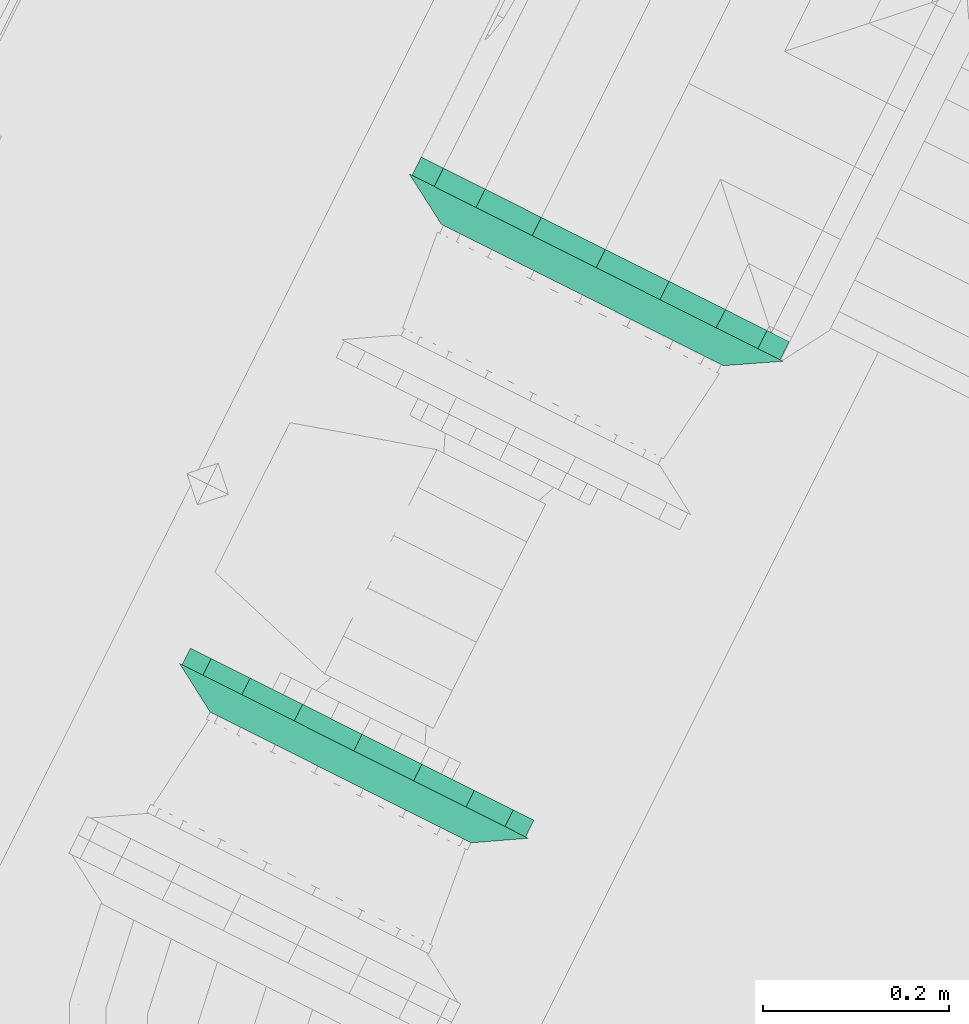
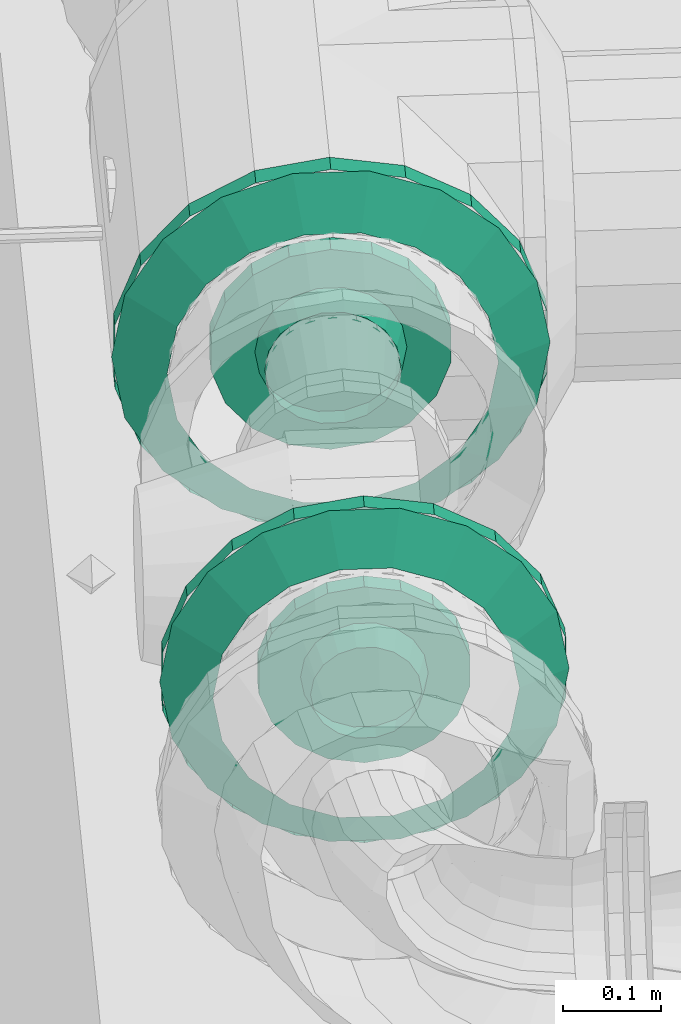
# One storey, part 111 of 206: 2 flow fittings.
"""IFC2X3 building model written with IfcOpenShell, lengths in metres."""

from ifc_helpers import new_model, si_unit, derived_unit, direction, frame, origin, place, context, subcontext, project, spatial, face_set, surface_model, source, transform, mapped, material, type_object, type_shapes, element, save


model = new_model("IFC2X3")

# Units and contexts
model_context = context("Model", 3, precision=5.2338327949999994e-05, world=origin(), true_north=direction((0.0, 1.0)))
body_context = subcontext(model_context, "Body", "Model", "MODEL_VIEW")
ifc_project = project(units=[si_unit("LENGTHUNIT", "METRE"), si_unit("AREAUNIT", "SQUARE_METRE"), si_unit("VOLUMEUNIT", "CUBIC_METRE"), si_unit("MASSUNIT", "GRAM", prefix="KILO"), si_unit("PLANEANGLEUNIT", "RADIAN"), derived_unit("THERMALTRANSMITTANCEUNIT", [(si_unit("MASSUNIT", "GRAM", prefix="KILO"), 1), (si_unit("THERMODYNAMICTEMPERATUREUNIT", "KELVIN"), -1), (si_unit("TIMEUNIT", "SECOND"), -3)])], contexts=[model_context])

# Site, building, storey
site_placement = place(None, frame((0.0, 0.0, 0.0), z_axis=(0.0, 0.0, 1.0), x_axis=(0.8939966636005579, -0.4480736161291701, 0.0)))
site = spatial("IfcSite", under=ifc_project, at=site_placement, Name="Default", CompositionType="ELEMENT")
building_placement = place(site_placement, origin())
building = spatial("IfcBuilding", under=site, at=building_placement, CompositionType="ELEMENT")
storey_placement = place(building_placement, origin())
storey = spatial("IfcBuildingStorey", under=building, at=storey_placement, Name="Erdgeschoss", CompositionType="ELEMENT", Elevation=0.0)

# Flow fittings
ifc_material = material(Name="IfcSurfaceStyle #1741")
distribution_element_type_1 = type_object("IfcDistributionElementType", Name="Flansch 318425:Flansch 318425", material=ifc_material)
shared_shape_1 = source(origin(), body_context, "Body", "SurfaceModel", [
    surface_model("IfcFaceBasedSurfaceModel", [(23.08485389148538, 6.45896109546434, 2.479), (23.04210137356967, 6.45896109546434, 2.4714615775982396), (23.04210137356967, 6.43696109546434, 2.4714615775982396), (23.08485389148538, 6.43696109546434, 2.479), (23.004505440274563, 6.45896109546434, 2.4497555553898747), (23.004505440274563, 6.43696109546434, 2.4497555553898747), (22.976600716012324, 6.45896109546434, 2.4165), (22.976600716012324, 6.43696109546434, 2.4165), (22.96175292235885, 6.45896109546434, 2.375706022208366), (22.96175292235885, 6.43696109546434, 2.375706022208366), (22.96175292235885, 6.45896109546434, 2.3322939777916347), (22.96175292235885, 6.43696109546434, 2.3322939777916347), (22.97660071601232, 6.45896109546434, 2.291500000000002), (22.97660071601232, 6.43696109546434, 2.291500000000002), (23.004505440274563, 6.45896109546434, 2.2582444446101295), (23.004505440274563, 6.43696109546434, 2.2582444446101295), (23.04210137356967, 6.45896109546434, 2.2365384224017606), (23.04210137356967, 6.43696109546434, 2.2365384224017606), (23.08485389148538, 6.45896109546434, 2.2290000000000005), (23.08485389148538, 6.43696109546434, 2.2290000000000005), (23.127606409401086, 6.45896109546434, 2.2365384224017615), (23.127606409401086, 6.43696109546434, 2.2365384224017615), (23.165202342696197, 6.45896109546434, 2.2582444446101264), (23.165202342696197, 6.43696109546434, 2.2582444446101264), (23.193107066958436, 6.45896109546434, 2.291500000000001), (23.193107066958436, 6.43696109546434, 2.291500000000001), (23.20795486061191, 6.45896109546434, 2.3322939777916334), (23.20795486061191, 6.43696109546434, 2.3322939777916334), (23.20795486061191, 6.45896109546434, 2.3757060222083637), (23.20795486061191, 6.43696109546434, 2.3757060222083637), (23.193107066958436, 6.45896109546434, 2.4164999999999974), (23.193107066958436, 6.43696109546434, 2.4164999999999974), (23.165202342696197, 6.45896109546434, 2.4497555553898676), (23.165202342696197, 6.43696109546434, 2.4497555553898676), (23.12760640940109, 6.45896109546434, 2.4714615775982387), (23.12760640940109, 6.43696109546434, 2.4714615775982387), (23.08485389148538, 6.43696109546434, 2.3540000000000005), (23.00685389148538, 6.43696109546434, 2.3540000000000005), (23.011557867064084, 6.43696109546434, 2.3273224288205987), (23.019216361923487, 6.403961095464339, 2.330109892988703), (23.01500389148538, 6.403961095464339, 2.3539999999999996), (23.025102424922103, 6.43696109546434, 2.3038625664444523), (23.031345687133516, 6.403961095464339, 2.3091012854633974), (23.045853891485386, 6.43696109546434, 2.286450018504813), (23.049928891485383, 6.403961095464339, 2.2935081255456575), (23.071309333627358, 6.43696109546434, 2.277184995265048), (23.072724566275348, 6.403961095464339, 2.2852111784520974), (23.0983984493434, 6.43696109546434, 2.277184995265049), (23.096983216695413, 6.403961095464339, 2.2852111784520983), (23.12385389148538, 6.43696109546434, 2.2864500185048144), (23.119778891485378, 6.403961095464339, 2.2935081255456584), (23.144605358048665, 6.43696109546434, 2.3038625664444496), (23.138362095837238, 6.403961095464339, 2.3091012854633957), (23.15814991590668, 6.43696109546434, 2.3273224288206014), (23.150491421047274, 6.403961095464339, 2.330109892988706), (23.162853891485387, 6.436961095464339, 2.354000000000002), (23.154703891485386, 6.4039610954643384, 2.3540000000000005), (23.15814991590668, 6.43696109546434, 2.380677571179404), (23.15049142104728, 6.403961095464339, 2.3778901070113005), (23.144605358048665, 6.43696109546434, 2.404137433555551), (23.138362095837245, 6.403961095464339, 2.3988987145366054), (23.12385389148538, 6.43696109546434, 2.4215499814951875), (23.119778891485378, 6.403961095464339, 2.414491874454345), (23.098398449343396, 6.43696109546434, 2.4308150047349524), (23.096983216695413, 6.403961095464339, 2.422788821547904), (23.071309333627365, 6.43696109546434, 2.4308150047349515), (23.072724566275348, 6.403961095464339, 2.4227888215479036), (23.045853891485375, 6.43696109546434, 2.4215499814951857), (23.049928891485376, 6.403961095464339, 2.4144918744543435), (23.0251024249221, 6.43696109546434, 2.4041374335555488), (23.031345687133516, 6.403961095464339, 2.398898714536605), (23.011557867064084, 6.43696109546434, 2.3806775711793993), (23.01921636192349, 6.403961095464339, 2.377890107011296), (23.084853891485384, 6.45896109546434, 2.5789999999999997), (23.007899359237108, 6.45896109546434, 2.5654308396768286), (23.0078993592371, 6.43696109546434, 2.565430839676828), (23.08485389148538, 6.43696109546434, 2.578999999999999), (22.940226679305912, 6.45896109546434, 2.5263599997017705), (22.94022667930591, 6.43696109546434, 2.5263599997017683), (22.88999817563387, 6.45896109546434, 2.4665000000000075), (22.88999817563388, 6.43696109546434, 2.4665000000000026), (22.863272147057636, 6.45896109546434, 2.3930708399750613), (22.863272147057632, 6.43696109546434, 2.3930708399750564), (22.863272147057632, 6.45896109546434, 2.3149291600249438), (22.863272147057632, 6.43696109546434, 2.3149291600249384), (22.889998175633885, 6.45896109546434, 2.2415000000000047), (22.889998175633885, 6.43696109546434, 2.2415000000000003), (22.9402266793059, 6.45896109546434, 2.1816400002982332), (22.940226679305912, 6.43696109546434, 2.1816400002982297), (23.007899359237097, 6.45896109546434, 2.142569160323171), (23.007899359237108, 6.43696109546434, 2.1425691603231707), (23.084853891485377, 6.45896109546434, 2.1289999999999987), (23.084853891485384, 6.43696109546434, 2.1290000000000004), (23.161808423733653, 6.45896109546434, 2.1425691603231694), (23.161808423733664, 6.43696109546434, 2.1425691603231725), (23.22948110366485, 6.45896109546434, 2.181640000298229), (23.229481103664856, 6.43696109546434, 2.1816400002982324), (23.279709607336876, 6.45896109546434, 2.241499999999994), (23.279709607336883, 6.43696109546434, 2.2415000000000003), (23.30643563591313, 6.45896109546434, 2.314929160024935), (23.306435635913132, 6.43696109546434, 2.3149291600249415), (23.30643563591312, 6.45896109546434, 2.3930708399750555), (23.30643563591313, 6.43696109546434, 2.393070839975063), (23.279709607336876, 6.45896109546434, 2.4664999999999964), (23.27970960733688, 6.43696109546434, 2.466500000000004), (23.229481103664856, 6.45896109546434, 2.5263599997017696), (23.229481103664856, 6.43696109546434, 2.5263599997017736), (23.161808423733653, 6.45896109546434, 2.565430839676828), (23.161808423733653, 6.43696109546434, 2.565430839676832), (22.85985389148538, 6.436961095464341, 2.3539999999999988), (22.873423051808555, 6.436961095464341, 2.277045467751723), (22.925247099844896, 6.40396109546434, 2.295907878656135), (22.91500389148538, 6.4039610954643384, 2.3539999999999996), (22.912493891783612, 6.436961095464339, 2.2093727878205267), (22.954741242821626, 6.4039610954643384, 2.244822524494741), (22.972353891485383, 6.43696109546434, 2.159144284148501), (22.999928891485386, 6.403961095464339, 2.206905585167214), (23.045783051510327, 6.43696109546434, 2.132418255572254), (23.05535974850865, 6.403961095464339, 2.1867304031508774), (23.12392473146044, 6.43696109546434, 2.132418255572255), (23.11434803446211, 6.403961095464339, 2.1867304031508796), (23.197353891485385, 6.436961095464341, 2.1591442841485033), (23.16977889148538, 6.40396109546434, 2.206905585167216), (23.257213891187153, 6.43696109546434, 2.209372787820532), (23.21496654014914, 6.403961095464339, 2.2448225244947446), (23.296284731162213, 6.43696109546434, 2.2770454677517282), (23.244460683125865, 6.403961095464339, 2.2959078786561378), (23.309853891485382, 6.4369610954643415, 2.354000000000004), (23.254703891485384, 6.403961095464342, 2.354000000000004), (23.296284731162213, 6.43696109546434, 2.4309545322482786), (23.24446068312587, 6.403961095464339, 2.4120921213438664), (23.257213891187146, 6.436961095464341, 2.498627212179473), (23.21496654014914, 6.40396109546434, 2.4631774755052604), (23.19735389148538, 6.43696109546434, 2.5488557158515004), (23.16977889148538, 6.403961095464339, 2.5010944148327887), (23.123924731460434, 6.43696109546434, 2.575581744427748), (23.114348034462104, 6.403961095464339, 2.5212695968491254), (23.045783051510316, 6.436961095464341, 2.5755817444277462), (23.05535974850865, 6.40396109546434, 2.5212695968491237), (22.97235389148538, 6.43696109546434, 2.548855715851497), (22.99992889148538, 6.403961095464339, 2.5010944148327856), (22.91249389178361, 6.436961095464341, 2.498627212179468), (22.954741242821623, 6.40396109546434, 2.4631774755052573), (22.873423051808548, 6.436961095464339, 2.4309545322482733), (22.925247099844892, 6.4039610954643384, 2.4120921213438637)], [face_set([[[0, 1, 2, 3]], [[1, 4, 5, 2]], [[4, 6, 7, 5]], [[6, 8, 9, 7]], [[8, 10, 11, 9]], [[10, 12, 13, 11]], [[12, 14, 15, 13]], [[14, 16, 17, 15]], [[16, 18, 19, 17]], [[18, 20, 21, 19]], [[20, 22, 23, 21]], [[22, 24, 25, 23]], [[24, 26, 27, 25]], [[26, 28, 29, 27]], [[28, 30, 31, 29]], [[30, 32, 33, 31]], [[32, 34, 35, 33]], [[34, 0, 3, 35]], [[36, 35, 3]], [[36, 33, 35]], [[36, 31, 33]], [[36, 29, 31]], [[36, 27, 29]], [[36, 25, 27]], [[36, 23, 25]], [[36, 21, 23]], [[36, 19, 21]], [[36, 17, 19]], [[36, 15, 17]], [[36, 13, 15]], [[36, 11, 13]], [[36, 9, 11]], [[36, 7, 9]], [[36, 5, 7]], [[36, 2, 5]], [[36, 3, 2]], [[37, 38, 39, 40]], [[38, 41, 42, 39]], [[41, 43, 44, 42]], [[43, 45, 46, 44]], [[45, 47, 48, 46]], [[47, 49, 50, 48]], [[49, 51, 52, 50]], [[51, 53, 54, 52]], [[53, 55, 56, 54]], [[55, 57, 58, 56]], [[57, 59, 60, 58]], [[59, 61, 62, 60]], [[61, 63, 64, 62]], [[63, 65, 66, 64]], [[65, 67, 68, 66]], [[67, 69, 70, 68]], [[69, 71, 72, 70]], [[71, 37, 40, 72]], [[73, 74, 75, 76]], [[74, 77, 78, 75]], [[77, 79, 80, 78]], [[79, 81, 82, 80]], [[81, 83, 84, 82]], [[83, 85, 86, 84]], [[85, 87, 88, 86]], [[87, 89, 90, 88]], [[89, 91, 92, 90]], [[91, 93, 94, 92]], [[93, 95, 96, 94]], [[95, 97, 98, 96]], [[97, 99, 100, 98]], [[99, 101, 102, 100]], [[101, 103, 104, 102]], [[103, 105, 106, 104]], [[105, 107, 108, 106]], [[107, 73, 76, 108]], [[109, 110, 111, 112]], [[110, 113, 114, 111]], [[113, 115, 116, 114]], [[115, 117, 118, 116]], [[117, 119, 120, 118]], [[119, 121, 122, 120]], [[121, 123, 124, 122]], [[123, 125, 126, 124]], [[125, 127, 128, 126]], [[127, 129, 130, 128]], [[129, 131, 132, 130]], [[131, 133, 134, 132]], [[133, 135, 136, 134]], [[135, 137, 138, 136]], [[137, 139, 140, 138]], [[139, 141, 142, 140]], [[141, 143, 144, 142]], [[143, 109, 112, 144]]])]),
])
type_shapes(distribution_element_type_1, [shared_shape_1])
flow_fitting_1_placement = place(storey_placement, origin())
element("IfcFlowFitting", 1, at=flow_fitting_1_placement, inside=storey, type_object=distribution_element_type_1, material=ifc_material, Name="Flansch", ObjectType="Flansch", context=body_context, shape_type="MappedRepresentation", body=[
    mapped(shared_shape_1, transform((0.0, 0.0, 0.0), scale=1.0)),
])
distribution_element_type_2 = type_object("IfcDistributionElementType", Name="Flansch 318805:Flansch 318805", material=ifc_material)
shared_shape_2 = source(origin(), body_context, "Body", "SurfaceModel", [
    surface_model("IfcFaceBasedSurfaceModel", [(23.08485389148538, 5.874961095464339, 2.4639999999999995), (23.047231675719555, 5.874961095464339, 2.457366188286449), (23.047231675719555, 5.85496109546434, 2.457366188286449), (23.08485389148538, 5.85496109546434, 2.4640000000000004), (23.01414725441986, 5.874961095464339, 2.438264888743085), (23.01414725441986, 5.85496109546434, 2.438264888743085), (22.989591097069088, 5.874961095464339, 2.4089999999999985), (22.989591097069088, 5.85496109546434, 2.4089999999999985), (22.976525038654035, 5.874961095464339, 2.373101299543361), (22.976525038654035, 5.85496109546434, 2.373101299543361), (22.976525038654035, 5.874961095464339, 2.3348987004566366), (22.976525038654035, 5.85496109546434, 2.3348987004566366), (22.98959109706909, 5.874961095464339, 2.298999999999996), (22.98959109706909, 5.85496109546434, 2.298999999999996), (23.01414725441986, 5.874961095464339, 2.2697351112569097), (23.01414725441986, 5.85496109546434, 2.2697351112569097), (23.047231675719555, 5.874961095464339, 2.2506338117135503), (23.047231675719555, 5.85496109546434, 2.2506338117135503), (23.08485389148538, 5.874961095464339, 2.243999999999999), (23.08485389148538, 5.85496109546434, 2.243999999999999), (23.122476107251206, 5.874961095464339, 2.25063381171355), (23.122476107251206, 5.85496109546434, 2.25063381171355), (23.155560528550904, 5.874961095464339, 2.269735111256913), (23.155560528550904, 5.85496109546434, 2.269735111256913), (23.180116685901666, 5.874961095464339, 2.299000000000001), (23.180116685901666, 5.85496109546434, 2.299000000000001), (23.193182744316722, 5.874961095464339, 2.3348987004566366), (23.193182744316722, 5.85496109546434, 2.3348987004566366), (23.193182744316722, 5.874961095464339, 2.373101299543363), (23.193182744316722, 5.85496109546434, 2.373101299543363), (23.180116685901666, 5.874961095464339, 2.4090000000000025), (23.180116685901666, 5.85496109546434, 2.4090000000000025), (23.1555605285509, 5.874961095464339, 2.43826488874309), (23.1555605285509, 5.85496109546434, 2.43826488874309), (23.122476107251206, 5.874961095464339, 2.4573661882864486), (23.122476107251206, 5.85496109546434, 2.4573661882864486), (23.08485389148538, 5.85496109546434, 2.354), (23.01935389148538, 5.85496109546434, 2.353999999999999), (23.023304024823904, 5.85496109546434, 2.3315976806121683), (23.03115045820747, 5.82296109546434, 2.3344535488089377), (23.02770389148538, 5.82296109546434, 2.354000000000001), (23.034677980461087, 5.85496109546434, 2.3118974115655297), (23.04107445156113, 5.82296109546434, 2.3172646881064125), (23.052103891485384, 5.85496109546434, 2.29727533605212), (23.05627889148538, 5.82296109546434, 2.304506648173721), (23.073479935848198, 5.85496109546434, 2.2894950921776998), (23.074929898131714, 5.82296109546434, 2.2977182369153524), (23.096227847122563, 5.85496109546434, 2.2894950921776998), (23.094777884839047, 5.82296109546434, 2.2977182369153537), (23.11760389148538, 5.85496109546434, 2.2972753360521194), (23.113428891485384, 5.82296109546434, 2.3045066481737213), (23.135029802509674, 5.85496109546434, 2.311897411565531), (23.128633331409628, 5.82296109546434, 2.3172646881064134), (23.146403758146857, 5.85496109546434, 2.331597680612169), (23.138557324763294, 5.82296109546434, 2.3344535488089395), (23.150353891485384, 5.85496109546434, 2.353999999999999), (23.142003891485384, 5.82296109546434, 2.3540000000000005), (23.14640375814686, 5.85496109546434, 2.376402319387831), (23.138557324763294, 5.82296109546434, 2.3735464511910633), (23.135029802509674, 5.85496109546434, 2.396102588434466), (23.128633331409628, 5.82296109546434, 2.3907353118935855), (23.11760389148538, 5.85496109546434, 2.4107246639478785), (23.11342889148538, 5.82296109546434, 2.4034933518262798), (23.096227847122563, 5.85496109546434, 2.4185049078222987), (23.09477788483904, 5.82296109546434, 2.410281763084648), (23.073479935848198, 5.85496109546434, 2.4185049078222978), (23.074929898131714, 5.82296109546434, 2.4102817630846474), (23.05210389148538, 5.85496109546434, 2.410724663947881), (23.056278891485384, 5.82296109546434, 2.403493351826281), (23.034677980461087, 5.85496109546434, 2.3961025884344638), (23.04107445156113, 5.82296109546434, 2.390735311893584), (23.023304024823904, 5.85496109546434, 2.3764023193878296), (23.031150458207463, 5.82296109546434, 2.3735464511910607), (23.084853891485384, 5.874961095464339, 2.5639999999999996), (23.01302966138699, 5.874961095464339, 2.551335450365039), (23.01302966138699, 5.85496109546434, 2.551335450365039), (23.08485389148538, 5.854961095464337, 2.563999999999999), (22.949868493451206, 5.874961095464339, 2.514869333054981), (22.949868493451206, 5.85496109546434, 2.514869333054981), (22.902988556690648, 5.874961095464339, 2.4589999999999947), (22.902988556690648, 5.85496109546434, 2.4589999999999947), (22.878044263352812, 5.874961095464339, 2.390466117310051), (22.878044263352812, 5.85496109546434, 2.390466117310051), (22.878044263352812, 5.874961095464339, 2.3175338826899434), (22.878044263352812, 5.85496109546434, 2.3175338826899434), (22.90298855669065, 5.874961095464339, 2.248999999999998), (22.90298855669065, 5.85496109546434, 2.248999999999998), (22.94986849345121, 5.874961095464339, 2.193130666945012), (22.94986849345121, 5.85496109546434, 2.193130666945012), (23.01302966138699, 5.874961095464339, 2.156664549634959), (23.01302966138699, 5.85496109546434, 2.156664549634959), (23.084853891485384, 5.874961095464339, 2.1439999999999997), (23.084853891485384, 5.85496109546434, 2.1439999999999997), (23.156678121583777, 5.874961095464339, 2.15666454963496), (23.156678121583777, 5.85496109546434, 2.15666454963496), (23.219839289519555, 5.874961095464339, 2.1931306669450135), (23.219839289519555, 5.85496109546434, 2.1931306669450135), (23.266719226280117, 5.874961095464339, 2.2490000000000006), (23.266719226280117, 5.85496109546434, 2.2490000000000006), (23.29166351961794, 5.874961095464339, 2.317533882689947), (23.29166351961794, 5.85496109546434, 2.317533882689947), (23.29166351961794, 5.874961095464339, 2.390466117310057), (23.29166351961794, 5.85496109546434, 2.390466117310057), (23.266719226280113, 5.874961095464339, 2.459000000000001), (23.266719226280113, 5.85496109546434, 2.459000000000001), (23.219839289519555, 5.874961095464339, 2.514869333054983), (23.219839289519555, 5.85496109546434, 2.514869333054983), (23.15667812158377, 5.874961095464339, 2.5513354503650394), (23.15667812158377, 5.85496109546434, 2.5513354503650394), (22.87485389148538, 5.854961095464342, 2.353999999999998), (22.887518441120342, 5.854961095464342, 2.282175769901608), (22.937181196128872, 5.822961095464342, 2.30025153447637), (22.927703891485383, 5.82296109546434, 2.3539999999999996), (22.923984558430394, 5.85496109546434, 2.219014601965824), (22.964470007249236, 5.82296109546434, 2.2529859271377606), (22.979853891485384, 5.854961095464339, 2.1721346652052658), (23.006278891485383, 5.822961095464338, 2.217904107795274), (23.048387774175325, 5.85496109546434, 2.147190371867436), (23.057565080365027, 5.82296109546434, 2.199237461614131), (23.12132000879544, 5.85496109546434, 2.1471903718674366), (23.11214270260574, 5.82296109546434, 2.1992374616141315), (23.18985389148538, 5.85496109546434, 2.172134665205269), (23.16342889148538, 5.82296109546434, 2.2179041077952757), (23.24572322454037, 5.854961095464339, 2.2190146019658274), (23.205237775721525, 5.822961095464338, 2.252985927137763), (23.28218934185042, 5.85496109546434, 2.282175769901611), (23.232526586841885, 5.82296109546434, 2.3002515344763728), (23.294853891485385, 5.85496109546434, 2.354000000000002), (23.242003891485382, 5.82296109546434, 2.354000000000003), (23.28218934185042, 5.85496109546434, 2.425824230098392), (23.232526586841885, 5.82296109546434, 2.407748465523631), (23.245723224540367, 5.85496109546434, 2.488985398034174), (23.205237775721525, 5.82296109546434, 2.4550140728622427), (23.189853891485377, 5.85496109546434, 2.535865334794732), (23.163428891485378, 5.82296109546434, 2.4900958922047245), (23.121320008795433, 5.85496109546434, 2.5608096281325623), (23.112142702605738, 5.82296109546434, 2.508762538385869), (23.04838777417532, 5.85496109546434, 2.560809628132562), (23.057565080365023, 5.82296109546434, 2.50876253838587), (22.979853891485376, 5.85496109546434, 2.5358653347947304), (23.006278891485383, 5.82296109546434, 2.4900958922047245), (22.923984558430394, 5.85496109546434, 2.488985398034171), (22.96447000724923, 5.82296109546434, 2.45501407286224), (22.887518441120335, 5.854961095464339, 2.4258242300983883), (22.937181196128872, 5.822961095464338, 2.4077484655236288)], [face_set([[[0, 1, 2, 3]], [[1, 4, 5, 2]], [[4, 6, 7, 5]], [[6, 8, 9, 7]], [[8, 10, 11, 9]], [[10, 12, 13, 11]], [[12, 14, 15, 13]], [[14, 16, 17, 15]], [[16, 18, 19, 17]], [[18, 20, 21, 19]], [[20, 22, 23, 21]], [[22, 24, 25, 23]], [[24, 26, 27, 25]], [[26, 28, 29, 27]], [[28, 30, 31, 29]], [[30, 32, 33, 31]], [[32, 34, 35, 33]], [[34, 0, 3, 35]], [[36, 35, 3]], [[36, 33, 35]], [[36, 31, 33]], [[36, 29, 31]], [[36, 27, 29]], [[36, 25, 27]], [[36, 23, 25]], [[36, 21, 23]], [[36, 19, 21]], [[36, 17, 19]], [[36, 15, 17]], [[36, 13, 15]], [[36, 11, 13]], [[36, 9, 11]], [[36, 7, 9]], [[36, 5, 7]], [[36, 2, 5]], [[36, 3, 2]], [[37, 38, 39, 40]], [[38, 41, 42, 39]], [[41, 43, 44, 42]], [[43, 45, 46, 44]], [[45, 47, 48, 46]], [[47, 49, 50, 48]], [[49, 51, 52, 50]], [[51, 53, 54, 52]], [[53, 55, 56, 54]], [[55, 57, 58, 56]], [[57, 59, 60, 58]], [[59, 61, 62, 60]], [[61, 63, 64, 62]], [[63, 65, 66, 64]], [[65, 67, 68, 66]], [[67, 69, 70, 68]], [[69, 71, 72, 70]], [[71, 37, 40, 72]], [[73, 74, 75, 76]], [[74, 77, 78, 75]], [[77, 79, 80, 78]], [[79, 81, 82, 80]], [[81, 83, 84, 82]], [[83, 85, 86, 84]], [[85, 87, 88, 86]], [[87, 89, 90, 88]], [[89, 91, 92, 90]], [[91, 93, 94, 92]], [[93, 95, 96, 94]], [[95, 97, 98, 96]], [[97, 99, 100, 98]], [[99, 101, 102, 100]], [[101, 103, 104, 102]], [[103, 105, 106, 104]], [[105, 107, 108, 106]], [[107, 73, 76, 108]], [[109, 110, 111, 112]], [[110, 113, 114, 111]], [[113, 115, 116, 114]], [[115, 117, 118, 116]], [[117, 119, 120, 118]], [[119, 121, 122, 120]], [[121, 123, 124, 122]], [[123, 125, 126, 124]], [[125, 127, 128, 126]], [[127, 129, 130, 128]], [[129, 131, 132, 130]], [[131, 133, 134, 132]], [[133, 135, 136, 134]], [[135, 137, 138, 136]], [[137, 139, 140, 138]], [[139, 141, 142, 140]], [[141, 143, 144, 142]], [[143, 109, 112, 144]]])]),
])
type_shapes(distribution_element_type_2, [shared_shape_2])
flow_fitting_2_placement = place(storey_placement, origin())
element("IfcFlowFitting", 2, at=flow_fitting_2_placement, inside=storey, type_object=distribution_element_type_2, material=ifc_material, Name="Flansch", ObjectType="Flansch", context=body_context, shape_type="MappedRepresentation", body=[
    mapped(shared_shape_2, transform((0.0, 0.0, 0.0), scale=1.0)),
])

save(model, "model.ifc")
